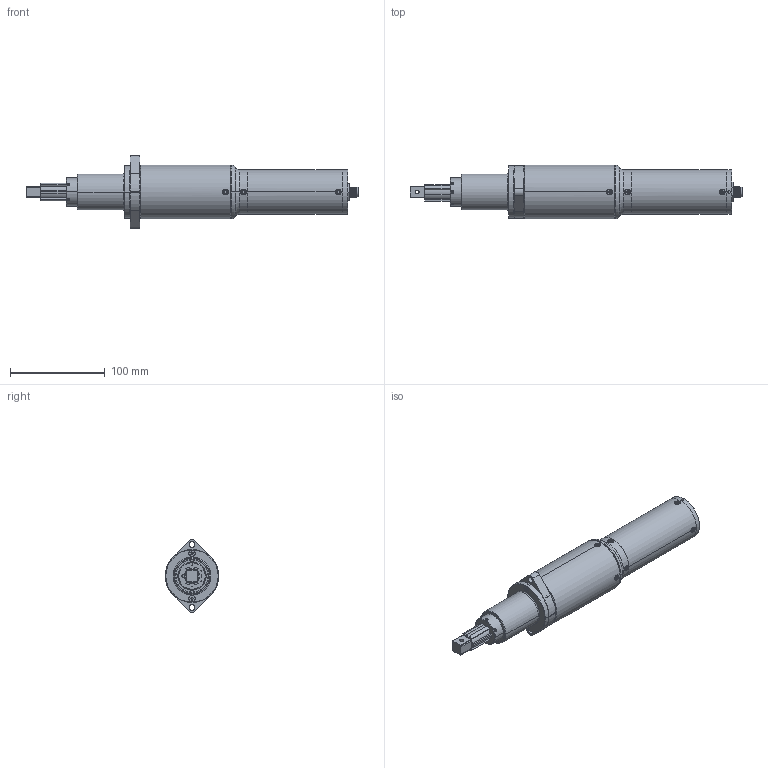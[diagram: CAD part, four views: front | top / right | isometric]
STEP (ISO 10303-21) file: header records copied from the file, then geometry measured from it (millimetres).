
FILE_DESCRIPTION (( 'STEP AP214' ), '1' );
FILE_NAME ('PL_50_CA_FN.STEP', '2014-03-31T13:57:39', ( 'davide' ), ( '' ), 'SwSTEP 2.0', 'SolidWorks 2013', '' );
FILE_SCHEMA (( 'AUTOMOTIVE_DESIGN' ));
Length unit declared in the file: millimetre
Products named in the file (1): PL_50_CA_FN
Bounding box: 351.2 x 57 x 77 mm (x, y, z)
Volume: 231254.7 mm3; surface area: 144942.3 mm2
Topology: 32 solids, 32 shells, 1119 faces, 2775 edges, 1718 vertices
Faces by surface type: cylinder 607, plane 247, cone 144, torus 70, bspline 41, sphere 10
Entity records: 60347 total; most frequent: CARTESIAN_POINT 21125, DIRECTION 5732, ORIENTED_EDGE 5474, EDGE_CURVE 2737, AXIS2_PLACEMENT_3D 2323, VERTEX_POINT 1718, EDGE_LOOP 1277, CIRCLE 1244
